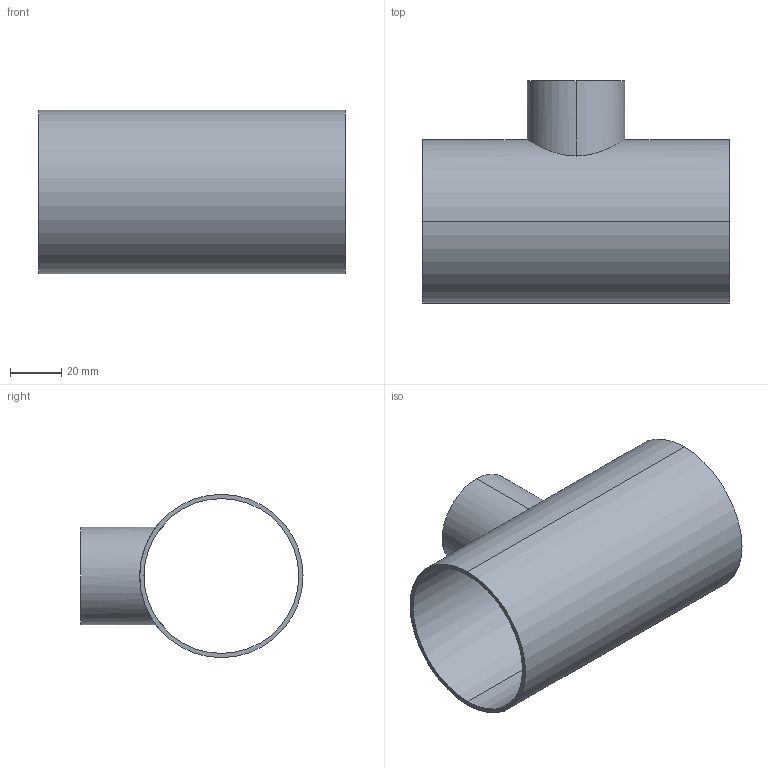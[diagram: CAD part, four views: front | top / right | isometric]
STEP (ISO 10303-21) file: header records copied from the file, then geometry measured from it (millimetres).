
FILE_DESCRIPTION (( 'STEP AP203' ), '1' );
FILE_NAME ('E7RWWW2.5X1.5.STEP', '2018-04-30T18:48:52', ( 'vneprd' ), ( 'Microsoft' ), 'SwSTEP 2.0', 'SolidWorks 2014', '' );
FILE_SCHEMA (( 'CONFIG_CONTROL_DESIGN' ));
Length unit declared in the file: inch
Products named in the file (1): E7RWWW2.5X1.5
Bounding box: 119.05 x 86.36 x 63.5 mm (x, y, z)
Volume: 41402.6 mm3; surface area: 50978.1 mm2
Topology: 1 solids, 1 shells, 11 faces, 24 edges, 16 vertices
Faces by surface type: cylinder 8, plane 3
Entity records: 613 total; most frequent: CARTESIAN_POINT 276, DIRECTION 56, ORIENTED_EDGE 48, AXIS2_PLACEMENT_3D 24, EDGE_CURVE 24, VERTEX_POINT 16, EDGE_LOOP 16, CIRCLE 12
